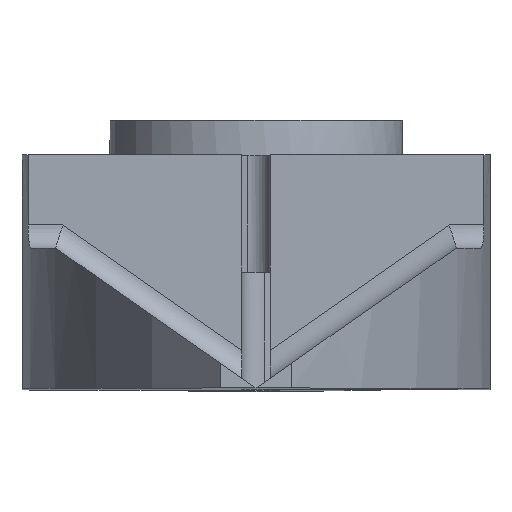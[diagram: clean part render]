
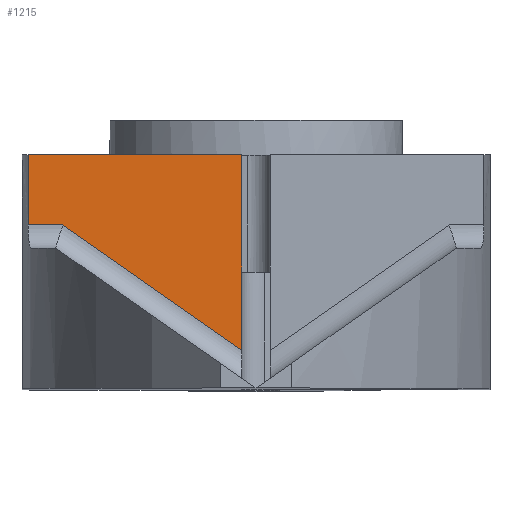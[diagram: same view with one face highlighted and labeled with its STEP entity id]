
A CAD part, top view. The second image highlights one B-rep face of the part: STEP entity #1215.
In plain terms, the highlighted planar face has unit normal (0, 0, 1).
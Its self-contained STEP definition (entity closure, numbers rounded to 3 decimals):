
#35=PLANE('',#1305);
#96=FACE_OUTER_BOUND('',#168,.T.);
#168=EDGE_LOOP('',(#850,#851,#852,#853,#854));
#250=LINE('',#1903,#347);
#251=LINE('',#1907,#348);
#257=LINE('',#1934,#354);
#258=LINE('',#1936,#355);
#259=LINE('',#1937,#356);
#347=VECTOR('',#1476,10.);
#348=VECTOR('',#1481,10.);
#354=VECTOR('',#1497,10.);
#355=VECTOR('',#1498,10.);
#356=VECTOR('',#1499,10.);
#527=VERTEX_POINT('',#1900);
#528=VERTEX_POINT('',#1902);
#529=VERTEX_POINT('',#1906);
#535=VERTEX_POINT('',#1933);
#536=VERTEX_POINT('',#1935);
#649=EDGE_CURVE('',#527,#528,#250,.T.);
#651=EDGE_CURVE('',#528,#529,#251,.T.);
#660=EDGE_CURVE('',#535,#527,#257,.T.);
#661=EDGE_CURVE('',#536,#535,#258,.T.);
#662=EDGE_CURVE('',#529,#536,#259,.T.);
#850=ORIENTED_EDGE('',*,*,#649,.F.);
#851=ORIENTED_EDGE('',*,*,#660,.F.);
#852=ORIENTED_EDGE('',*,*,#661,.F.);
#853=ORIENTED_EDGE('',*,*,#662,.F.);
#854=ORIENTED_EDGE('',*,*,#651,.F.);
#1215=ADVANCED_FACE('',(#96),#35,.F.);
#1305=AXIS2_PLACEMENT_3D('',#1932,#1495,#1496);
#1476=DIRECTION('',(-0.819,0.574,0.));
#1481=DIRECTION('',(-1.,0.,0.));
#1495=DIRECTION('center_axis',(0.,0.,-1.));
#1496=DIRECTION('ref_axis',(1.,0.,0.));
#1497=DIRECTION('',(0.,-1.,0.));
#1498=DIRECTION('',(1.,0.,0.));
#1499=DIRECTION('',(0.,1.,0.));
#1900=CARTESIAN_POINT('',(-0.6,1.641,29.));
#1902=CARTESIAN_POINT('',(-8.254,7.,29.));
#1903=CARTESIAN_POINT('',(-2.264,2.806,29.));
#1906=CARTESIAN_POINT('',(-9.742,7.,29.));
#1907=CARTESIAN_POINT('',(-6.348,7.,29.));
#1932=CARTESIAN_POINT('Origin',(-4.126,6.184,29.));
#1933=CARTESIAN_POINT('',(-0.6,10.,29.));
#1934=CARTESIAN_POINT('',(-0.6,3.092,29.));
#1935=CARTESIAN_POINT('',(-9.742,10.,29.));
#1936=CARTESIAN_POINT('',(-2.063,10.,29.));
#1937=CARTESIAN_POINT('',(-9.742,0.,29.));
